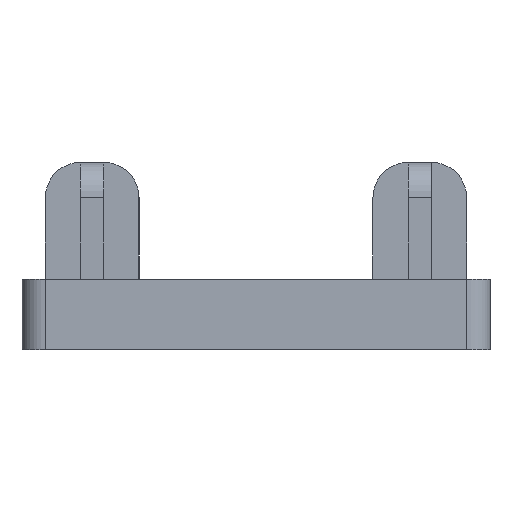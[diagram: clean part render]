
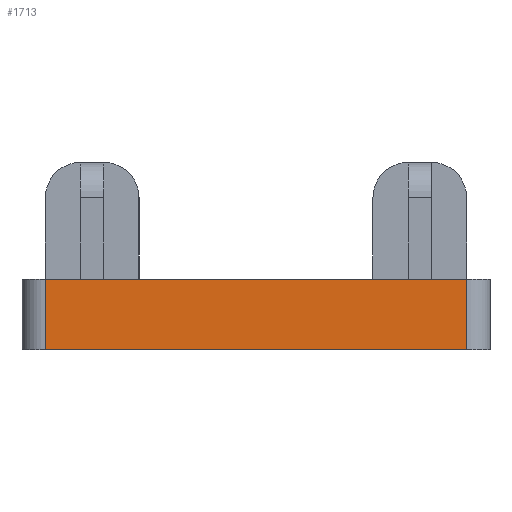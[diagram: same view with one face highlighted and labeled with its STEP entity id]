
A CAD part, left-side view. The second image highlights one B-rep face of the part: STEP entity #1713.
In plain terms, the highlighted planar face has unit normal (-1, 0, 0).
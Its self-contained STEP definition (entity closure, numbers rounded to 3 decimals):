
#51 = CARTESIAN_POINT ( 'NONE',  ( -20., 9., 3. ) ) ;
#93 = ORIENTED_EDGE ( 'NONE', *, *, #2212, .T. ) ;
#318 = LINE ( 'NONE', #346, #2385 ) ;
#336 = AXIS2_PLACEMENT_3D ( 'NONE', #1822, #1403, #504 ) ;
#346 = CARTESIAN_POINT ( 'NONE',  ( -20., 9., 0. ) ) ;
#399 = VECTOR ( 'NONE', #1327, 1000. ) ;
#425 = VERTEX_POINT ( 'NONE', #51 ) ;
#504 = DIRECTION ( 'NONE',  ( 0., 0., 1. ) ) ;
#505 = EDGE_CURVE ( 'NONE', #850, #547, #1147, .T. ) ;
#547 = VERTEX_POINT ( 'NONE', #1407 ) ;
#576 = VERTEX_POINT ( 'NONE', #2570 ) ;
#735 = FACE_OUTER_BOUND ( 'NONE', #1302, .T. ) ;
#850 = VERTEX_POINT ( 'NONE', #2787 ) ;
#928 = DIRECTION ( 'NONE',  ( 0., 0., 1. ) ) ;
#1134 = VECTOR ( 'NONE', #928, 1000. ) ;
#1147 = LINE ( 'NONE', #2431, #399 ) ;
#1174 = EDGE_CURVE ( 'NONE', #425, #850, #318, .T. ) ;
#1227 = DIRECTION ( 'NONE',  ( 0., 0., -1. ) ) ;
#1256 = ORIENTED_EDGE ( 'NONE', *, *, #2528, .F. ) ;
#1302 = EDGE_LOOP ( 'NONE', ( #93, #1256, #1572, #1521 ) ) ;
#1327 = DIRECTION ( 'NONE',  ( 0., -1., 0. ) ) ;
#1403 = DIRECTION ( 'NONE',  ( -1., 0., 0. ) ) ;
#1407 = CARTESIAN_POINT ( 'NONE',  ( -20., -9., 0. ) ) ;
#1521 = ORIENTED_EDGE ( 'NONE', *, *, #505, .T. ) ;
#1572 = ORIENTED_EDGE ( 'NONE', *, *, #1174, .T. ) ;
#1713 = ADVANCED_FACE ( 'NONE', ( #735 ), #2098, .T. ) ;
#1804 = LINE ( 'NONE', #2265, #1134 ) ;
#1810 = CARTESIAN_POINT ( 'NONE',  ( -20., 0., 3. ) ) ;
#1822 = CARTESIAN_POINT ( 'NONE',  ( -20., 10., 0. ) ) ;
#2062 = VECTOR ( 'NONE', #2271, 1000. ) ;
#2098 = PLANE ( 'NONE',  #336 ) ;
#2212 = EDGE_CURVE ( 'NONE', #547, #576, #1804, .T. ) ;
#2265 = CARTESIAN_POINT ( 'NONE',  ( -20., -9., 0. ) ) ;
#2271 = DIRECTION ( 'NONE',  ( 0., -1., 0. ) ) ;
#2385 = VECTOR ( 'NONE', #1227, 1000. ) ;
#2431 = CARTESIAN_POINT ( 'NONE',  ( -20., 10., 0. ) ) ;
#2528 = EDGE_CURVE ( 'NONE', #425, #576, #2895, .T. ) ;
#2570 = CARTESIAN_POINT ( 'NONE',  ( -20., -9., 3. ) ) ;
#2787 = CARTESIAN_POINT ( 'NONE',  ( -20., 9., 0. ) ) ;
#2895 = LINE ( 'NONE', #1810, #2062 ) ;
